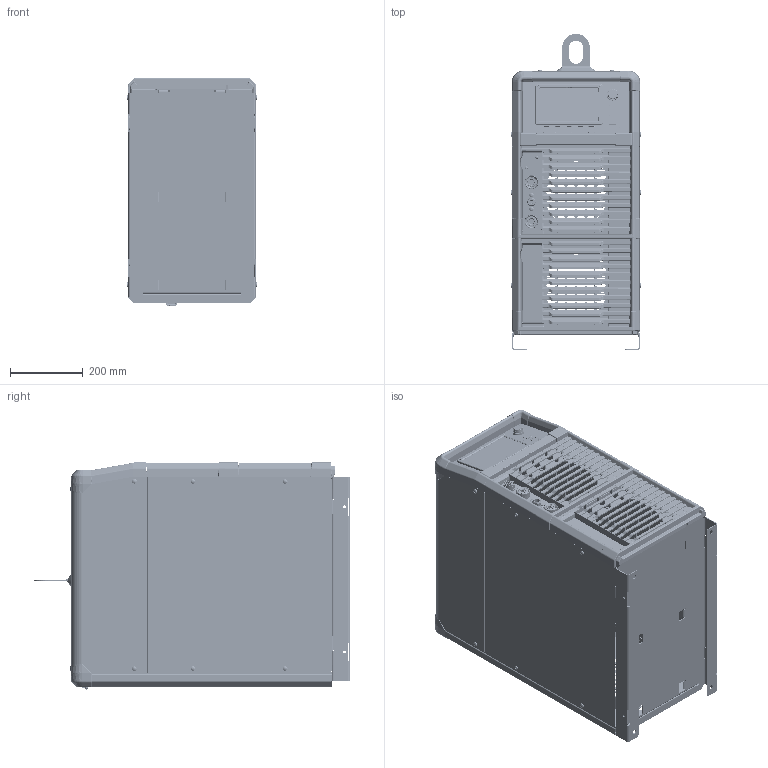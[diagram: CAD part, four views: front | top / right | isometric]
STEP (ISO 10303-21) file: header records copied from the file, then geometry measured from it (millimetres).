
FILE_DESCRIPTION (( 'STEP AP214' ), '1' );
FILE_NAME ('907859.STEP', '2024-10-25T13:44:01', ( '' ), ( '' ), 'SwSTEP 2.0', 'SolidWorks 2022', '' );
FILE_SCHEMA (( 'AUTOMOTIVE_DESIGN' ));
Length unit declared in the file: inch
Products named in the file (92): 292738; 122210; 128237; 293590; 242579; 264346; 292270; 137761; 292276; 278019; 226639; 202711; 274935; 230155; 185717; 292268; 181529; 134735; 221282_0.375 Length; 274934; 216859; 227147_Rev A Torx; 292275; 206258_CIT; 292269; 238805; 292278; 270465; 250955; 293591_LEADS SUPPRESED; 289225; 292816; 268771_93365A120; 292272; 178548; 276755; 249816; 292585; 186228; 213073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
Assembly tree (89 placements, depth 4):
  122210
  226639
  274935
  128237
  230155
Bounding box: 357.88 x 867.52 x 623.53 mm (x, y, z)
Volume: 5145921.3 mm3; surface area: 4665401.4 mm2
Topology: 97 solids, 97 shells, 16498 faces, 41869 edges, 25320 vertices
Faces by surface type: cylinder 6674, plane 5305, bspline 3625, sphere 316, torus 296, cone 282
Entity records: 440524 total; most frequent: CARTESIAN_POINT 143197, ORIENTED_EDGE 62602, DIRECTION 52669, EDGE_CURVE 31301, VERTEX_POINT 19261, AXIS2_PLACEMENT_3D 18164, VECTOR 16341, LINE 16341
